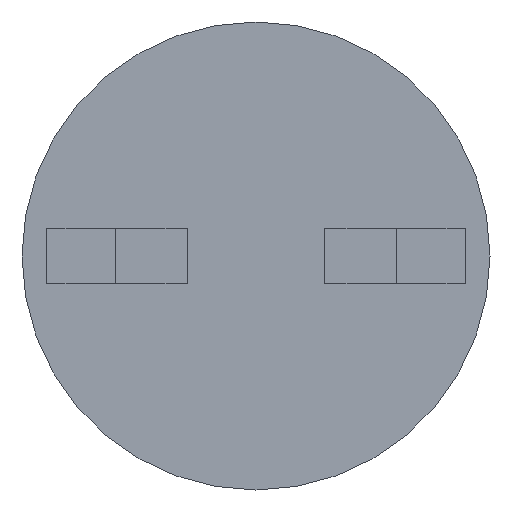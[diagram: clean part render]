
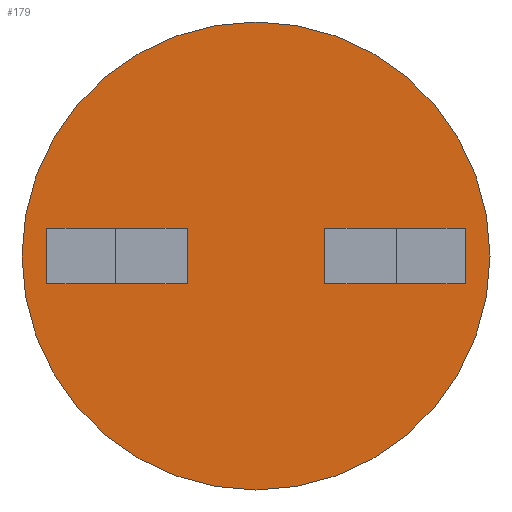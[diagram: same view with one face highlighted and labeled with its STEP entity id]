
A CAD part, front view. The second image highlights one B-rep face of the part: STEP entity #179.
In plain terms, the highlighted planar face has unit normal (0, -1, 0).
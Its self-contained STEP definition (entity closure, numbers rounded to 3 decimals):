
#5 = VECTOR ( 'NONE', #555, 1000. ) ;
#11 = VERTEX_POINT ( 'NONE', #87 ) ;
#13 = DIRECTION ( 'NONE',  ( 0., 0., -1. ) ) ;
#20 = AXIS2_PLACEMENT_3D ( 'NONE', #285, #226, #793 ) ;
#29 = ORIENTED_EDGE ( 'NONE', *, *, #698, .T. ) ;
#30 = DIRECTION ( 'NONE',  ( 0., -1., 0. ) ) ;
#37 = FACE_BOUND ( 'NONE', #181, .T. ) ;
#38 = CARTESIAN_POINT ( 'NONE',  ( -0.5, 0., 0.2 ) ) ;
#41 = ORIENTED_EDGE ( 'NONE', *, *, #445, .F. ) ;
#53 = EDGE_CURVE ( 'NONE', #715, #343, #505, .T. ) ;
#84 = ORIENTED_EDGE ( 'NONE', *, *, #777, .T. ) ;
#87 = CARTESIAN_POINT ( 'NONE',  ( -0.5, 0., -0.2 ) ) ;
#98 = CARTESIAN_POINT ( 'NONE',  ( 1.27, 0., -0.2 ) ) ;
#105 = DIRECTION ( 'NONE',  ( -1., 0., 0. ) ) ;
#108 = CARTESIAN_POINT ( 'NONE',  ( 0., 0., 0. ) ) ;
#124 = EDGE_CURVE ( 'NONE', #425, #715, #659, .T. ) ;
#128 = ORIENTED_EDGE ( 'NONE', *, *, #757, .T. ) ;
#137 = CIRCLE ( 'NONE', #20, 1.7 ) ;
#143 = DIRECTION ( 'NONE',  ( 0., 0., -1. ) ) ;
#148 = EDGE_LOOP ( 'NONE', ( #163, #155 ) ) ;
#155 = ORIENTED_EDGE ( 'NONE', *, *, #583, .T. ) ;
#163 = ORIENTED_EDGE ( 'NONE', *, *, #890, .T. ) ;
#179 = ADVANCED_FACE ( 'NONE', ( #37, #428, #824 ), #534, .T. ) ;
#181 = EDGE_LOOP ( 'NONE', ( #587, #84, #776, #41 ) ) ;
#184 = DIRECTION ( 'NONE',  ( 1., 0., 0. ) ) ;
#191 = AXIS2_PLACEMENT_3D ( 'NONE', #231, #30, #612 ) ;
#192 = DIRECTION ( 'NONE',  ( -1., 0., 0. ) ) ;
#193 = CARTESIAN_POINT ( 'NONE',  ( 0.5, 0., -0.2 ) ) ;
#196 = VECTOR ( 'NONE', #582, 1000. ) ;
#197 = AXIS2_PLACEMENT_3D ( 'NONE', #108, #603, #184 ) ;
#226 = DIRECTION ( 'NONE',  ( 0., -1., 0. ) ) ;
#231 = CARTESIAN_POINT ( 'NONE',  ( 0., 0., 0. ) ) ;
#253 = ORIENTED_EDGE ( 'NONE', *, *, #124, .F. ) ;
#266 = VERTEX_POINT ( 'NONE', #317 ) ;
#273 = LINE ( 'NONE', #474, #626 ) ;
#275 = CARTESIAN_POINT ( 'NONE',  ( 1.27, 0., 0.2 ) ) ;
#285 = CARTESIAN_POINT ( 'NONE',  ( 0., 0., 0. ) ) ;
#317 = CARTESIAN_POINT ( 'NONE',  ( -1.7, 0., 0. ) ) ;
#324 = VECTOR ( 'NONE', #602, 1000. ) ;
#334 = VECTOR ( 'NONE', #384, 1000. ) ;
#343 = VERTEX_POINT ( 'NONE', #193 ) ;
#347 = VECTOR ( 'NONE', #192, 1000. ) ;
#370 = CARTESIAN_POINT ( 'NONE',  ( 0.5, 0., 0.2 ) ) ;
#377 = LINE ( 'NONE', #475, #196 ) ;
#384 = DIRECTION ( 'NONE',  ( -1., 0., 0. ) ) ;
#398 = CARTESIAN_POINT ( 'NONE',  ( -1.27, 0., -0.2 ) ) ;
#425 = VERTEX_POINT ( 'NONE', #915 ) ;
#428 = FACE_OUTER_BOUND ( 'NONE', #148, .T. ) ;
#445 = EDGE_CURVE ( 'NONE', #911, #518, #273, .T. ) ;
#455 = CARTESIAN_POINT ( 'NONE',  ( -0.5, 0., 0.2 ) ) ;
#457 = VERTEX_POINT ( 'NONE', #510 ) ;
#470 = VECTOR ( 'NONE', #105, 1000. ) ;
#474 = CARTESIAN_POINT ( 'NONE',  ( -1.27, 0., 0.2 ) ) ;
#475 = CARTESIAN_POINT ( 'NONE',  ( -0.5, 0., -0.2 ) ) ;
#505 = LINE ( 'NONE', #370, #324 ) ;
#506 = CARTESIAN_POINT ( 'NONE',  ( 0.5, 0., 0.2 ) ) ;
#510 = CARTESIAN_POINT ( 'NONE',  ( 1.7, 0., 0. ) ) ;
#518 = VERTEX_POINT ( 'NONE', #398 ) ;
#531 = CARTESIAN_POINT ( 'NONE',  ( 0.5, 0., 0.2 ) ) ;
#534 = PLANE ( 'NONE',  #191 ) ;
#539 = LINE ( 'NONE', #806, #334 ) ;
#555 = DIRECTION ( 'NONE',  ( 0., 0., -1. ) ) ;
#562 = EDGE_CURVE ( 'NONE', #681, #911, #899, .T. ) ;
#582 = DIRECTION ( 'NONE',  ( -1., 0., 0. ) ) ;
#583 = EDGE_CURVE ( 'NONE', #266, #457, #137, .T. ) ;
#584 = ORIENTED_EDGE ( 'NONE', *, *, #53, .F. ) ;
#587 = ORIENTED_EDGE ( 'NONE', *, *, #562, .F. ) ;
#602 = DIRECTION ( 'NONE',  ( 0., 0., -1. ) ) ;
#603 = DIRECTION ( 'NONE',  ( 0., -1., 0. ) ) ;
#612 = DIRECTION ( 'NONE',  ( 1., 0., 0. ) ) ;
#626 = VECTOR ( 'NONE', #143, 1000. ) ;
#659 = LINE ( 'NONE', #506, #470 ) ;
#681 = VERTEX_POINT ( 'NONE', #786 ) ;
#690 = VECTOR ( 'NONE', #13, 1000. ) ;
#698 = EDGE_CURVE ( 'NONE', #425, #798, #780, .T. ) ;
#709 = LINE ( 'NONE', #455, #690 ) ;
#715 = VERTEX_POINT ( 'NONE', #531 ) ;
#722 = EDGE_CURVE ( 'NONE', #11, #518, #377, .T. ) ;
#750 = CARTESIAN_POINT ( 'NONE',  ( -1.27, 0., 0.2 ) ) ;
#757 = EDGE_CURVE ( 'NONE', #798, #343, #539, .T. ) ;
#776 = ORIENTED_EDGE ( 'NONE', *, *, #722, .T. ) ;
#777 = EDGE_CURVE ( 'NONE', #681, #11, #709, .T. ) ;
#780 = LINE ( 'NONE', #275, #5 ) ;
#786 = CARTESIAN_POINT ( 'NONE',  ( -0.5, 0., 0.2 ) ) ;
#793 = DIRECTION ( 'NONE',  ( 1., 0., 0. ) ) ;
#798 = VERTEX_POINT ( 'NONE', #98 ) ;
#806 = CARTESIAN_POINT ( 'NONE',  ( 0.5, 0., -0.2 ) ) ;
#807 = CIRCLE ( 'NONE', #197, 1.7 ) ;
#824 = FACE_BOUND ( 'NONE', #852, .T. ) ;
#852 = EDGE_LOOP ( 'NONE', ( #584, #253, #29, #128 ) ) ;
#890 = EDGE_CURVE ( 'NONE', #457, #266, #807, .T. ) ;
#899 = LINE ( 'NONE', #38, #347 ) ;
#911 = VERTEX_POINT ( 'NONE', #750 ) ;
#915 = CARTESIAN_POINT ( 'NONE',  ( 1.27, 0., 0.2 ) ) ;
